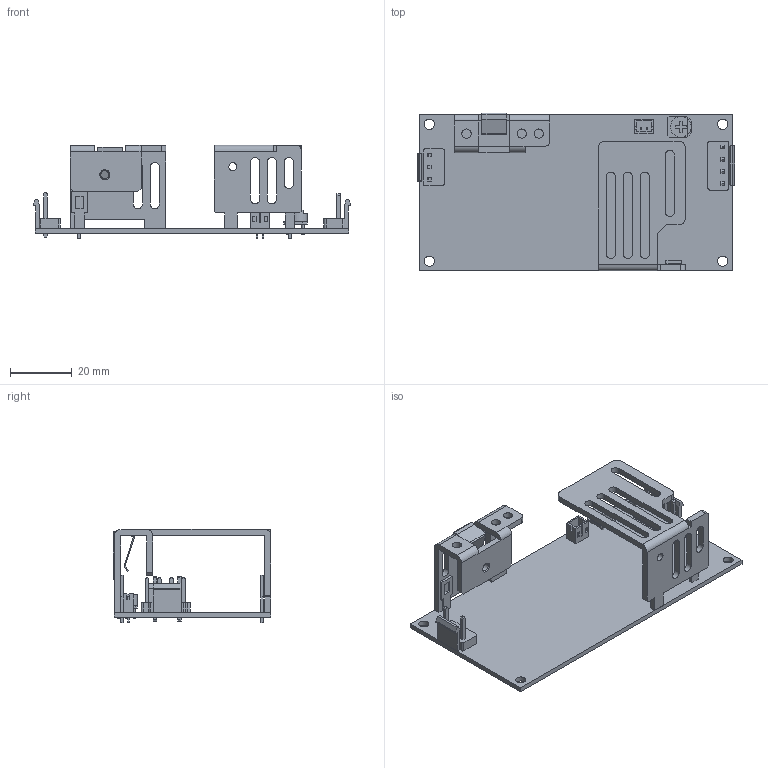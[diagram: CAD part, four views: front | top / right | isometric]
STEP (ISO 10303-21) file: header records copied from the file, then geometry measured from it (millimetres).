
FILE_DESCRIPTION((''),'2;1');
FILE_NAME('W:\mechanical\機構工程圖\3D圖檔\3D Outline-2020\已完成待審核\EPS-120.stp','2020-06-04T09:58:52',('shirley'),(''),'Autodesk Inventor 2010','Autodesk Inventor 2010','');
FILE_SCHEMA(('AUTOMOTIVE_DESIGN { 1 0 10303 214 1 1 1 1 }'));
Length unit declared in the file: millimetre
Products named in the file (16): EPS-120; HS1; pin.1.2.1; p2; p1; pcb; clip; JS-1120-03N2; CN1; PIN_CPY; PIN_CPY_CPY; JS-1120-04; VR-1; JST B2B-PH-K-S
Assembly tree (15 placements, depth 3):
  EPS-120
    HS1
      pin.1.2.1
      p2
    HS1
      p1
      pin.1.2.1
    pcb
    clip
    JS-1120-03N2
      CN1
      PIN_CPY
      PIN_CPY_CPY
    JS-1120-04
    VR-1
    JST B2B-PH-K-S
Bounding box: 102.98 x 51.25 x 30.4 mm (x, y, z)
Volume: 14158.6 mm3; surface area: 19886.1 mm2
Topology: 18 solids, 18 shells, 435 faces, 1403 edges, 1258 vertices
Faces by surface type: plane 327, cylinder 93, bspline 13, cone 2
Full cylindrical faces by diameter (mm): 0.8 x3, 2.2 x1, 2.6 x2, 3 x3, 3.3 x4, 6.747 x1
Entity records: 17842 total; most frequent: CARTESIAN_POINT 4262, DIRECTION 2494, ORIENTED_EDGE 2240, VECTOR 1128, LINE 1128, EDGE_CURVE 1120, VERTEX_POINT 732, AXIS2_PLACEMENT_3D 683
